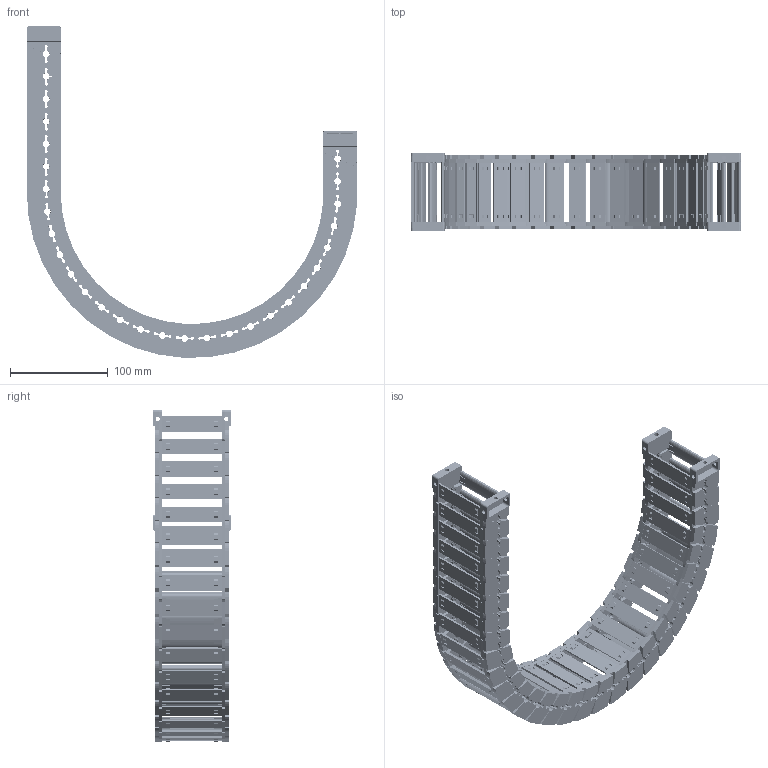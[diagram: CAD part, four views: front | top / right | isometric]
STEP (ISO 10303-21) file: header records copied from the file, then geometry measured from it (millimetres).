
FILE_DESCRIPTION((''),'2;1');
FILE_NAME('JY-28X60-R150_ASM','2026-03-25T20:52:00',('admin'),(''),'CREO PARAMETRIC BY PTC INC, 2021023','CREO PARAMETRIC BY PTC INC, 2021023','');
FILE_SCHEMA(('CONFIG_CONTROL_DESIGN'));
Length unit declared in the file: millimetre
Products named in the file (11): 28XL-L; 25-35XL-YP; 28XL-R; ASM0001_ASM; 28-LTT-A-L; 28-LTT-A-R; 28XL-LTT-A_ASM; 28-LTT-B-L; 28-LTT-B-R; 28XL-LTT-B_ASM; JY-28X60-R150_ASM
Assembly tree (42 placements, depth 3):
  JY-28X60-R150_ASM
    ASM0001_ASM  x28
      28XL-L
      25-35XL-YP
      28XL-R
    28XL-LTT-A_ASM
      28-LTT-A-L
      25-35XL-YP  x2
      28-LTT-A-R
    28XL-LTT-B_ASM
      28-LTT-B-L
      25-35XL-YP  x2
      28-LTT-B-R
Bounding box: 337.23 x 79 x 338.94 mm (x, y, z)
Volume: 487155.6 mm3; surface area: 352258.8 mm2
Topology: 120 solids, 120 shells, 9750 faces, 28988 edges, 19358 vertices
Faces by surface type: plane 6392, cone 1766, cylinder 1394, bspline 198
Entity records: 29175 total; most frequent: CARTESIAN_POINT 9500, ORIENTED_EDGE 4352, DIRECTION 3675, EDGE_CURVE 2176, VERTEX_POINT 1454, VECTOR 1365, LINE 1365, AXIS2_PLACEMENT_3D 1155
